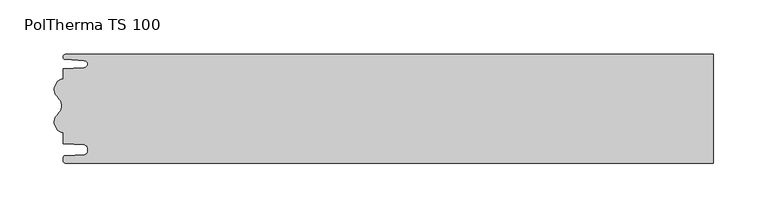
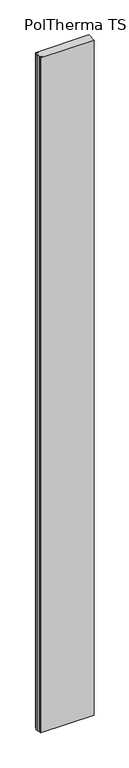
"""IFC4 building model written with IfcOpenShell, lengths in millimetres: plate geometry, Europanels_Poltherma TS_Vt : PolTherma TS 100."""

from ifc_helpers import new_model, si_unit, point, frame_2d, origin, origin_with_axes, place, context, project, spatial, polyline, circle_curve, trimmed, segment, composite_curve, outline, extrude, source, transform, mapped, element, save


def poltherma_ts_100_5c1c5dba(model_context):
    return source(origin(), model_context, "Body", "SweptSolid", [
        extrude(outline(composite_curve([segment(trimmed(circle_curve(frame_2d((-296.6475513, 17.7)), 10.0), [point((-303.2619295, 10.2))], [point((-298.5011047, 27.5267156))], False, "CARTESIAN"), True, "CONTINUOUS"), segment(polyline([(-298.5011047, 27.5267156), (-298.5011047, 36.641555), (-278.9415802, 37.7691486)]), True, "CONTINUOUS"), segment(trimmed(circle_curve(frame_2d((-279.1306987, 41.0496456)), 3.2859437), [point((-278.9415802, 37.7691486))], [point((-278.9531856, 44.3307909))], True, "CARTESIAN"), True, "CONTINUOUS"), segment(polyline([(-278.9531856, 44.3307909), (-296.3724381, 45.2731892)]), True, "CONTINUOUS"), segment(trimmed(circle_curve(frame_2d((-296.244669, 47.6348678)), 2.3651322), [point((-296.3724381, 45.2731892))], [point((-296.244669, 50.0))], False, "CARTESIAN"), True, "CONTINUOUS"), segment(polyline([(-296.244669, 50.0), (300.0, 50.0), (300.0, -50.0), (-296.5011047, -50.0)]), True, "CONTINUOUS"), segment(trimmed(circle_curve(frame_2d((-296.5011047, -48.0)), 2.0), [point((-296.5011047, -50.0))], [point((-298.5011047, -48.0))], False, "CARTESIAN"), True, "CONTINUOUS"), segment(polyline([(-298.5011047, -48.0), (-298.5011047, -45.1821674)]), True, "CONTINUOUS"), segment(trimmed(circle_curve(frame_2d((-296.5032674, -45.2751521)), 2.0), [point((-298.5011047, -45.1821674))], [point((-296.6113113, -43.2780726))], False, "CARTESIAN"), True, "CONTINUOUS"), segment(polyline([(-296.6113113, -43.2780726), (-278.8380248, -42.3165207)]), True, "CONTINUOUS"), segment(trimmed(circle_curve(frame_2d((-279.0000906, -39.3209015)), 3.0), [point((-278.8380248, -42.3165207))], [point((-276.0000906, -39.3209015))], True, "CARTESIAN"), True, "CONTINUOUS"), segment(polyline([(-276.0000906, -39.3209015), (-276.0000906, -36.3793238)]), True, "CONTINUOUS"), segment(trimmed(circle_curve(frame_2d((-279.0000906, -36.3793238)), 3.0), [point((-276.0000906, -36.3793238))], [point((-278.8274293, -33.3842966))], True, "CARTESIAN"), True, "CONTINUOUS"), segment(polyline([(-278.8274293, -33.3842966), (-298.5011047, -32.2501222), (-298.5011047, -22.1267156)]), True, "CONTINUOUS"), segment(trimmed(circle_curve(frame_2d((-296.6475513, -12.3)), 10.0), [point((-298.5011047, -22.1267156))], [point((-303.2619295, -4.8))], False, "CARTESIAN"), True, "CONTINUOUS"), segment(trimmed(circle_curve(frame_2d((-309.8763078, 2.7)), 10.0), [point((-303.2619295, -4.8))], [point((-303.2619295, 10.2))], True, "CARTESIAN"), True, "CONTINUOUS")], self_intersect=False)), origin_with_axes(), (0.0, 0.0, 1.0), 8000.0),
    ])


if __name__ == "__main__":
    model = new_model("IFC4")
    model_context = context("Model", 3, world=origin())
    ifc_project = project(units=[si_unit("LENGTHUNIT", "METRE", prefix="MILLI")], contexts=[model_context])
    site = spatial("IfcSite", under=ifc_project)
    building = spatial("IfcBuilding", under=site)
    placement = place(None, origin())
    poltherma_ts_100_shape = poltherma_ts_100_5c1c5dba(model_context)
    element("IfcPlate", 1, ObjectType="Europanels_Poltherma TS_Vt : PolTherma TS 100", at=placement, inside=building, context=model_context, shape_type="MappedRepresentation", body=[
        mapped(poltherma_ts_100_shape, transform((0.0, 0.0, 0.0), x_axis=(1.0, 0.0, 0.0), y_axis=(0.0, 1.0, 0.0), z_axis=(0.0, 0.0, 1.0))),
    ])
    save(model, "model.ifc")
